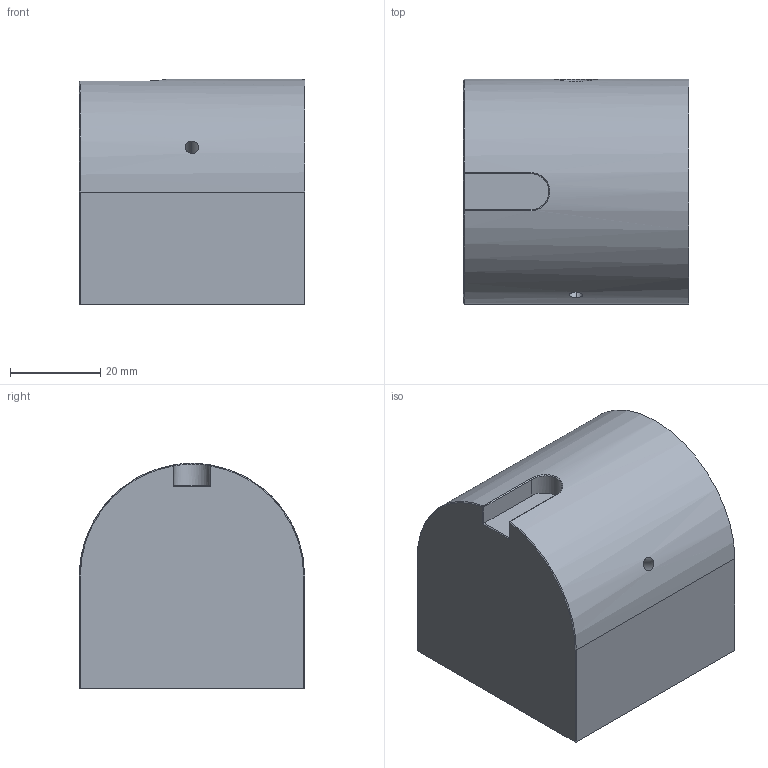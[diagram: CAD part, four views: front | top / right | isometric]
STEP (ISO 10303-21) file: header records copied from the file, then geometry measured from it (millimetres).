
FILE_DESCRIPTION((''),'2;1');
FILE_NAME('TESTS_TG','2007-10-16T',('legall'),('EPFL'),'PRO/ENGINEER BY PARAMETRIC TECHNOLOGY CORPORATION, 2005310','PRO/ENGINEER BY PARAMETRIC TECHNOLOGY CORPORATION, 2005310','');
FILE_SCHEMA(('CONFIG_CONTROL_DESIGN'));
Length unit declared in the file: millimetre
Products named in the file (1): TESTS_TG
Bounding box: 50 x 50 x 50 mm (x, y, z)
Volume: 107386.5 mm3; surface area: 15134.4 mm2
Topology: 1 solids, 1 shells, 33 faces, 79 edges, 48 vertices
Faces by surface type: plane 16, cylinder 8, bspline 7, cone 2
Entity records: 1557 total; most frequent: CARTESIAN_POINT 798, ORIENTED_EDGE 158, DIRECTION 125, EDGE_CURVE 79, VERTEX_POINT 48, VECTOR 47, LINE 47, AXIS2_PLACEMENT_3D 39
